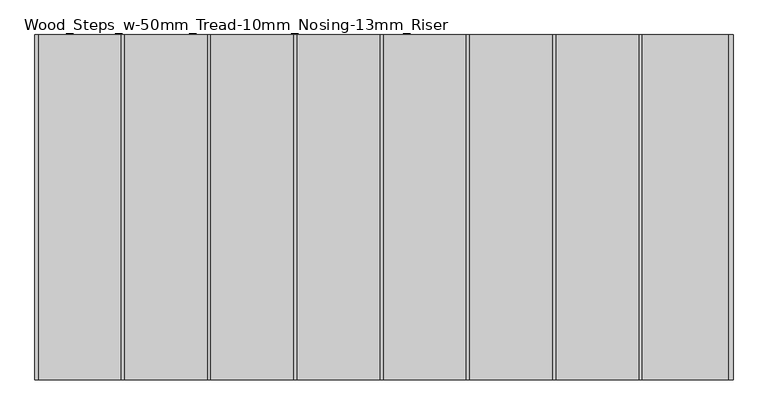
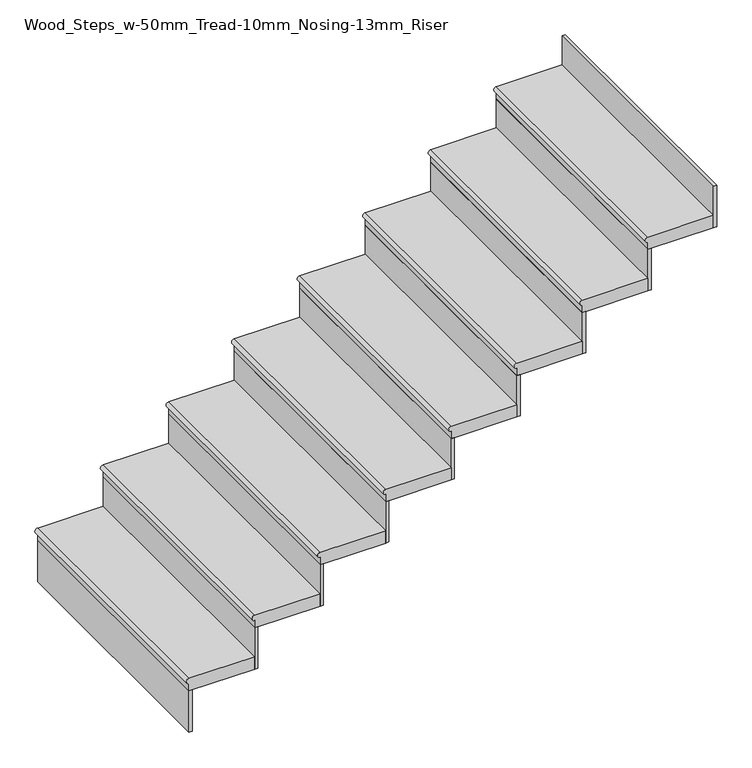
"""IFC4 building model written with IfcOpenShell, lengths in millimetres: stair flight geometry, Wood_Steps_w-50mm_Tread-10mm_Nosing-13mm_Riser."""

from ifc_helpers import new_model, si_unit, point, frame, frame_2d, origin, place, context, project, spatial, polyline, circle_curve, trimmed, segment, composite_curve, outline, extrude, source, transform, mapped, element, save


def wood_steps_w_50mm_tread_10mm_nosing_13mm_riser_a1ae9321(model_context):
    return source(origin(), model_context, "Body", "SweptSolid", [
        extrude(outline(composite_curve([segment(polyline([(4466.6666667, -17400.7705062), (4466.6666667, -17650.7705062)]), True, "CONTINUOUS"), segment(trimmed(circle_curve(frame_2d((4456.6666667, -17650.7705062)), 10.0), [point((4466.6666667, -17650.7705062))], [point((4446.6666667, -17650.7705062))], False, "CARTESIAN"), True, "CONTINUOUS"), segment(polyline([(4446.6666667, -17650.7705062), (4416.6666667, -17650.7705062), (4416.6666667, -17400.7705062), (4466.6666667, -17400.7705062)]), True, "CONTINUOUS")], self_intersect=False)), frame((0.0, -33165.7565305, 0.0), z_axis=(0.0, 1.0, 0.0), x_axis=(0.0, 0.0, 1.0)), (0.0, 0.0, 1.0), 1000.0),
        extrude(outline(polyline([(-17638.2705062, -33165.7565305), (-17650.7705062, -33165.7565305), (-17650.7705062, -32165.7565305), (-17638.2705062, -32165.7565305), (-17638.2705062, -33165.7565305)])), frame((0.0, 0.0, 4250.0), z_axis=(0.0, 0.0, 1.0), x_axis=(1.0, 0.0, 0.0)), (0.0, 0.0, 1.0), 166.6666667),
        extrude(outline(polyline([(-17388.2705062, -33165.7565305), (-17400.7705062, -33165.7565305), (-17400.7705062, -32165.7565305), (-17388.2705062, -32165.7565305), (-17388.2705062, -33165.7565305)])), frame((0.0, 0.0, 4416.6666667), z_axis=(0.0, 0.0, 1.0), x_axis=(1.0, 0.0, 0.0)), (0.0, 0.0, 1.0), 166.6666667),
        extrude(outline(composite_curve([segment(polyline([(4633.3333333, -17150.7705062), (4633.3333333, -17400.7705062)]), True, "CONTINUOUS"), segment(trimmed(circle_curve(frame_2d((4623.3333333, -17400.7705062)), 10.0), [point((4633.3333333, -17400.7705062))], [point((4613.3333333, -17400.7705062))], False, "CARTESIAN"), True, "CONTINUOUS"), segment(polyline([(4613.3333333, -17400.7705062), (4583.3333333, -17400.7705062), (4583.3333333, -17150.7705062), (4633.3333333, -17150.7705062)]), True, "CONTINUOUS")], self_intersect=False)), frame((0.0, -33165.7565305, 0.0), z_axis=(0.0, 1.0, 0.0), x_axis=(0.0, 0.0, 1.0)), (0.0, 0.0, 1.0), 1000.0),
        extrude(outline(polyline([(-17138.2705062, -33165.7565305), (-17150.7705062, -33165.7565305), (-17150.7705062, -32165.7565305), (-17138.2705062, -32165.7565305), (-17138.2705062, -33165.7565305)])), frame((0.0, 0.0, 4583.3333333), z_axis=(0.0, 0.0, 1.0), x_axis=(1.0, 0.0, 0.0)), (0.0, 0.0, 1.0), 166.6666667),
        extrude(outline(composite_curve([segment(polyline([(4800.0, -16900.7705062), (4800.0, -17150.7705062)]), True, "CONTINUOUS"), segment(trimmed(circle_curve(frame_2d((4790.0, -17150.7705062)), 10.0), [point((4800.0, -17150.7705062))], [point((4780.0, -17150.7705062))], False, "CARTESIAN"), True, "CONTINUOUS"), segment(polyline([(4780.0, -17150.7705062), (4750.0, -17150.7705062), (4750.0, -16900.7705062), (4800.0, -16900.7705062)]), True, "CONTINUOUS")], self_intersect=False)), frame((0.0, -33165.7565305, 0.0), z_axis=(0.0, 1.0, 0.0), x_axis=(0.0, 0.0, 1.0)), (0.0, 0.0, 1.0), 1000.0),
        extrude(outline(polyline([(-16888.2705062, -33165.7565305), (-16900.7705062, -33165.7565305), (-16900.7705062, -32165.7565305), (-16888.2705062, -32165.7565305), (-16888.2705062, -33165.7565305)])), frame((0.0, 0.0, 4750.0), z_axis=(0.0, 0.0, 1.0), x_axis=(1.0, 0.0, 0.0)), (0.0, 0.0, 1.0), 166.6666667),
        extrude(outline(composite_curve([segment(polyline([(4966.6666667, -16650.7705062), (4966.6666667, -16900.7705062)]), True, "CONTINUOUS"), segment(trimmed(circle_curve(frame_2d((4956.6666667, -16900.7705062)), 10.0), [point((4966.6666667, -16900.7705062))], [point((4946.6666667, -16900.7705062))], False, "CARTESIAN"), True, "CONTINUOUS"), segment(polyline([(4946.6666667, -16900.7705062), (4916.6666667, -16900.7705062), (4916.6666667, -16650.7705062), (4966.6666667, -16650.7705062)]), True, "CONTINUOUS")], self_intersect=False)), frame((0.0, -33165.7565305, 0.0), z_axis=(0.0, 1.0, 0.0), x_axis=(0.0, 0.0, 1.0)), (0.0, 0.0, 1.0), 1000.0),
        extrude(outline(polyline([(-16638.2705062, -33165.7565305), (-16650.7705062, -33165.7565305), (-16650.7705062, -32165.7565305), (-16638.2705062, -32165.7565305), (-16638.2705062, -33165.7565305)])), frame((0.0, 0.0, 4916.6666667), z_axis=(0.0, 0.0, 1.0), x_axis=(1.0, 0.0, 0.0)), (0.0, 0.0, 1.0), 166.6666667),
        extrude(outline(composite_curve([segment(polyline([(5133.3333333, -16400.7705062), (5133.3333333, -16650.7705062)]), True, "CONTINUOUS"), segment(trimmed(circle_curve(frame_2d((5123.3333333, -16650.7705062)), 10.0), [point((5133.3333333, -16650.7705062))], [point((5113.3333333, -16650.7705062))], False, "CARTESIAN"), True, "CONTINUOUS"), segment(polyline([(5113.3333333, -16650.7705062), (5083.3333333, -16650.7705062), (5083.3333333, -16400.7705062), (5133.3333333, -16400.7705062)]), True, "CONTINUOUS")], self_intersect=False)), frame((0.0, -33165.7565305, 0.0), z_axis=(0.0, 1.0, 0.0), x_axis=(0.0, 0.0, 1.0)), (0.0, 0.0, 1.0), 1000.0),
        extrude(outline(polyline([(-16388.2705062, -33165.7565305), (-16400.7705062, -33165.7565305), (-16400.7705062, -32165.7565305), (-16388.2705062, -32165.7565305), (-16388.2705062, -33165.7565305)])), frame((0.0, 0.0, 5083.3333333), z_axis=(0.0, 0.0, 1.0), x_axis=(1.0, 0.0, 0.0)), (0.0, 0.0, 1.0), 166.6666667),
        extrude(outline(composite_curve([segment(polyline([(5300.0, -16150.7705062), (5300.0, -16400.7705062)]), True, "CONTINUOUS"), segment(trimmed(circle_curve(frame_2d((5290.0, -16400.7705062)), 10.0), [point((5300.0, -16400.7705062))], [point((5280.0, -16400.7705062))], False, "CARTESIAN"), True, "CONTINUOUS"), segment(polyline([(5280.0, -16400.7705062), (5250.0, -16400.7705062), (5250.0, -16150.7705062), (5300.0, -16150.7705062)]), True, "CONTINUOUS")], self_intersect=False)), frame((0.0, -33165.7565305, 0.0), z_axis=(0.0, 1.0, 0.0), x_axis=(0.0, 0.0, 1.0)), (0.0, 0.0, 1.0), 1000.0),
        extrude(outline(polyline([(-16138.2705062, -33165.7565305), (-16150.7705062, -33165.7565305), (-16150.7705062, -32165.7565305), (-16138.2705062, -32165.7565305), (-16138.2705062, -33165.7565305)])), frame((0.0, 0.0, 5250.0), z_axis=(0.0, 0.0, 1.0), x_axis=(1.0, 0.0, 0.0)), (0.0, 0.0, 1.0), 166.6666667),
        extrude(outline(composite_curve([segment(polyline([(5466.6666667, -15900.7705062), (5466.6666667, -16150.7705062)]), True, "CONTINUOUS"), segment(trimmed(circle_curve(frame_2d((5456.6666667, -16150.7705062)), 10.0), [point((5466.6666667, -16150.7705062))], [point((5446.6666667, -16150.7705062))], False, "CARTESIAN"), True, "CONTINUOUS"), segment(polyline([(5446.6666667, -16150.7705062), (5416.6666667, -16150.7705062), (5416.6666667, -15900.7705062), (5466.6666667, -15900.7705062)]), True, "CONTINUOUS")], self_intersect=False)), frame((0.0, -33165.7565305, 0.0), z_axis=(0.0, 1.0, 0.0), x_axis=(0.0, 0.0, 1.0)), (0.0, 0.0, 1.0), 1000.0),
        extrude(outline(polyline([(-15888.2705062, -33165.7565305), (-15900.7705062, -33165.7565305), (-15900.7705062, -32165.7565305), (-15888.2705062, -32165.7565305), (-15888.2705062, -33165.7565305)])), frame((0.0, 0.0, 5416.6666667), z_axis=(0.0, 0.0, 1.0), x_axis=(1.0, 0.0, 0.0)), (0.0, 0.0, 1.0), 166.6666667),
        extrude(outline(polyline([(-15638.2705062, -33165.7565305), (-15650.7705062, -33165.7565305), (-15650.7705062, -32165.7565305), (-15638.2705062, -32165.7565305), (-15638.2705062, -33165.7565305)])), frame((0.0, 0.0, 5583.3333333), z_axis=(0.0, 0.0, 1.0), x_axis=(1.0, 0.0, 0.0)), (0.0, 0.0, 1.0), 166.6666667),
        extrude(outline(composite_curve([segment(polyline([(5633.3333333, -15650.7705062), (5633.3333333, -15900.7705062)]), True, "CONTINUOUS"), segment(trimmed(circle_curve(frame_2d((5623.3333333, -15900.7705062)), 10.0), [point((5633.3333333, -15900.7705062))], [point((5613.3333333, -15900.7705062))], False, "CARTESIAN"), True, "CONTINUOUS"), segment(polyline([(5613.3333333, -15900.7705062), (5583.3333333, -15900.7705062), (5583.3333333, -15650.7705062), (5633.3333333, -15650.7705062)]), True, "CONTINUOUS")], self_intersect=False)), frame((0.0, -33165.7565305, 0.0), z_axis=(0.0, 1.0, 0.0), x_axis=(0.0, 0.0, 1.0)), (0.0, 0.0, 1.0), 1000.0),
    ])


if __name__ == "__main__":
    model = new_model("IFC4")
    model_context = context("Model", 3, world=origin())
    ifc_project = project(units=[si_unit("LENGTHUNIT", "METRE", prefix="MILLI")], contexts=[model_context])
    site = spatial("IfcSite", under=ifc_project)
    building = spatial("IfcBuilding", under=site)
    placement = place(None, origin())
    wood_steps_w_50mm_tread_10mm_nosing_13mm_riser_shape = wood_steps_w_50mm_tread_10mm_nosing_13mm_riser_a1ae9321(model_context)
    element("IfcStairFlight", 1, ObjectType="Wood_Steps_w-50mm_Tread-10mm_Nosing-13mm_Riser", at=placement, inside=building, context=model_context, shape_type="MappedRepresentation", body=[
        mapped(wood_steps_w_50mm_tread_10mm_nosing_13mm_riser_shape, transform((0.0, 0.0, 0.0), x_axis=(1.0, 0.0, 0.0), y_axis=(0.0, 1.0, 0.0), z_axis=(0.0, 0.0, 1.0))),
    ])
    save(model, "model.ifc")
